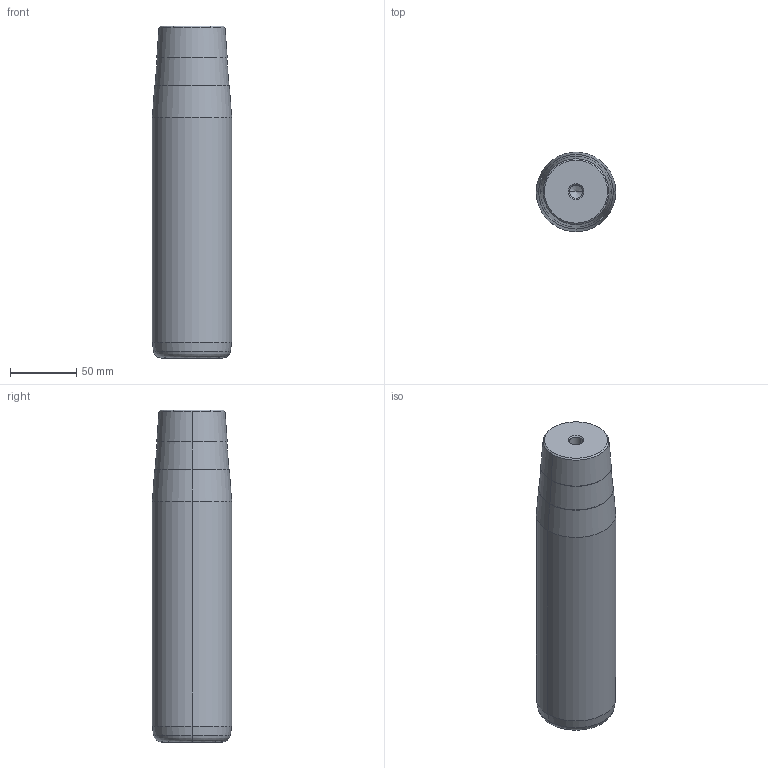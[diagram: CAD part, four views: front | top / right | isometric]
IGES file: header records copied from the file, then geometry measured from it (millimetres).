
Start section: START RECORD GO HERE.
Global section: file name: 722-60x200x251.igs; native system: DASSAULT SYSTEMES CATIA V5 R20 - www.3ds.com; preprocessor: CATIA Version 5 Release 20 ; author: Utente; organization: NB04-ASUS; date: 20210107.203340; units: millimetre
Bounding box: 60 x 60 x 251 mm (x, y, z)
Surface area: 52059.6 mm2 (no closed solid volume)
Topology: 0 solids, 0 shells, 32 faces, 128 edges, 124 vertices
Faces by surface type: revolution 30, plane 2
